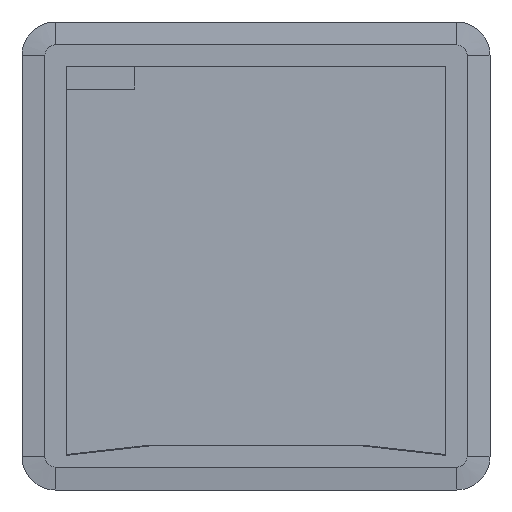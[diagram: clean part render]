
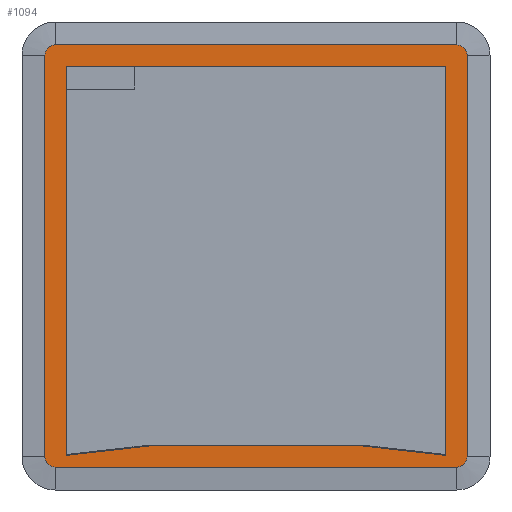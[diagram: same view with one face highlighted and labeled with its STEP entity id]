
A CAD part, front view. The second image highlights one B-rep face of the part: STEP entity #1094.
In plain terms, the highlighted planar face has unit normal (0, -1, 0).
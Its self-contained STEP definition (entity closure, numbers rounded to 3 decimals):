
#162=FACE_BOUND('',#3929,.T.);
#1094=ADVANCED_FACE('',(#2465,#162),#22536,.T.);
#2465=FACE_OUTER_BOUND('',#3928,.T.);
#3928=EDGE_LOOP('',(#9380,#9381,#9382,#9383,#9384,#9385,#9386,#9387));
#3929=EDGE_LOOP('',(#9388,#9389,#9390,#9391,#9392,#9393));
#9380=ORIENTED_EDGE('',*,*,#14332,.F.);
#9381=ORIENTED_EDGE('',*,*,#14335,.F.);
#9382=ORIENTED_EDGE('',*,*,#14338,.F.);
#9383=ORIENTED_EDGE('',*,*,#14341,.F.);
#9384=ORIENTED_EDGE('',*,*,#14344,.F.);
#9385=ORIENTED_EDGE('',*,*,#14363,.F.);
#9386=ORIENTED_EDGE('',*,*,#14325,.F.);
#9387=ORIENTED_EDGE('',*,*,#14329,.F.);
#9388=ORIENTED_EDGE('',*,*,#14313,.F.);
#9389=ORIENTED_EDGE('',*,*,#14311,.F.);
#9390=ORIENTED_EDGE('',*,*,#14309,.T.);
#9391=ORIENTED_EDGE('',*,*,#14314,.F.);
#9392=ORIENTED_EDGE('',*,*,#14315,.F.);
#9393=ORIENTED_EDGE('',*,*,#14312,.T.);
#14309=EDGE_CURVE('',#20990,#20989,#18599,.T.);
#14311=EDGE_CURVE('',#20990,#20991,#18601,.T.);
#14312=EDGE_CURVE('',#20993,#20992,#18602,.T.);
#14313=EDGE_CURVE('',#20991,#20992,#18603,.T.);
#14314=EDGE_CURVE('',#20995,#20989,#18604,.T.);
#14315=EDGE_CURVE('',#20993,#20995,#18605,.T.);
#14325=EDGE_CURVE('',#20997,#20996,#18615,.T.);
#14329=EDGE_CURVE('',#20994,#20997,#15879,.T.);
#14332=EDGE_CURVE('',#21001,#20994,#18620,.T.);
#14335=EDGE_CURVE('',#21003,#21001,#15881,.T.);
#14338=EDGE_CURVE('',#21005,#21003,#18624,.T.);
#14341=EDGE_CURVE('',#21007,#21005,#15883,.T.);
#14344=EDGE_CURVE('',#21009,#21007,#18628,.T.);
#14363=EDGE_CURVE('',#20996,#21009,#15889,.T.);
#15879=(
BOUNDED_CURVE()
B_SPLINE_CURVE(2,(#42123,#42124,#42125),.UNSPECIFIED.,.F.,.F.)
B_SPLINE_CURVE_WITH_KNOTS((3,3),(-7.069,0.),.UNSPECIFIED.)
CURVE()
GEOMETRIC_REPRESENTATION_ITEM()
RATIONAL_B_SPLINE_CURVE((1.,0.707,1.))
REPRESENTATION_ITEM('')
);
#15881=(
BOUNDED_CURVE()
B_SPLINE_CURVE(2,(#42137,#42138,#42139),.UNSPECIFIED.,.F.,.F.)
B_SPLINE_CURVE_WITH_KNOTS((3,3),(-7.069,0.),.UNSPECIFIED.)
CURVE()
GEOMETRIC_REPRESENTATION_ITEM()
RATIONAL_B_SPLINE_CURVE((1.,0.707,1.))
REPRESENTATION_ITEM('')
);
#15883=(
BOUNDED_CURVE()
B_SPLINE_CURVE(2,(#42151,#42152,#42153),.UNSPECIFIED.,.F.,.F.)
B_SPLINE_CURVE_WITH_KNOTS((3,3),(-7.069,0.),.UNSPECIFIED.)
CURVE()
GEOMETRIC_REPRESENTATION_ITEM()
RATIONAL_B_SPLINE_CURVE((1.,0.707,1.))
REPRESENTATION_ITEM('')
);
#15889=(
BOUNDED_CURVE()
B_SPLINE_CURVE(2,(#42201,#42202,#42203),.UNSPECIFIED.,.F.,.F.)
B_SPLINE_CURVE_WITH_KNOTS((3,3),(-7.069,0.),.UNSPECIFIED.)
CURVE()
GEOMETRIC_REPRESENTATION_ITEM()
RATIONAL_B_SPLINE_CURVE((1.,0.707,1.))
REPRESENTATION_ITEM('')
);
#18599=B_SPLINE_CURVE_WITH_KNOTS('',1,(#42005,#42006),.UNSPECIFIED.,.F.,
 .F.,(2,2),(-165.5,0.),.UNSPECIFIED.);
#18601=B_SPLINE_CURVE_WITH_KNOTS('',1,(#42009,#42010),.UNSPECIFIED.,.F.,
 .F.,(2,2),(0.,169.649),.UNSPECIFIED.);
#18602=B_SPLINE_CURVE_WITH_KNOTS('',1,(#42011,#42012),.UNSPECIFIED.,.F.,
 .F.,(2,2),(-92.062,0.),.UNSPECIFIED.);
#18603=B_SPLINE_CURVE_WITH_KNOTS('',1,(#42013,#42014),.UNSPECIFIED.,.F.,
 .F.,(2,2),(0.,36.953),.UNSPECIFIED.);
#18604=B_SPLINE_CURVE_WITH_KNOTS('',1,(#42015,#42016),.UNSPECIFIED.,.F.,
 .F.,(2,2),(0.,169.649),.UNSPECIFIED.);
#18605=B_SPLINE_CURVE_WITH_KNOTS('',1,(#42017,#42018),.UNSPECIFIED.,.F.,
 .F.,(2,2),(-36.953,0.),.UNSPECIFIED.);
#18615=B_SPLINE_CURVE_WITH_KNOTS('',1,(#42115,#42116),.UNSPECIFIED.,.F.,
 .F.,(2,2),(-175.,0.),.UNSPECIFIED.);
#18620=B_SPLINE_CURVE_WITH_KNOTS('',1,(#42131,#42132),.UNSPECIFIED.,.F.,
 .F.,(2,2),(-175.,0.),.UNSPECIFIED.);
#18624=B_SPLINE_CURVE_WITH_KNOTS('',1,(#42145,#42146),.UNSPECIFIED.,.F.,
 .F.,(2,2),(-175.,0.),.UNSPECIFIED.);
#18628=B_SPLINE_CURVE_WITH_KNOTS('',1,(#42159,#42160),.UNSPECIFIED.,.F.,
 .F.,(2,2),(-175.,0.),.UNSPECIFIED.);
#20989=VERTEX_POINT('',#41933);
#20990=VERTEX_POINT('',#41934);
#20991=VERTEX_POINT('',#41935);
#20992=VERTEX_POINT('',#41936);
#20993=VERTEX_POINT('',#41937);
#20994=VERTEX_POINT('',#41938);
#20995=VERTEX_POINT('',#41939);
#20996=VERTEX_POINT('',#41940);
#20997=VERTEX_POINT('',#41941);
#21001=VERTEX_POINT('',#41945);
#21003=VERTEX_POINT('',#41947);
#21005=VERTEX_POINT('',#41949);
#21007=VERTEX_POINT('',#41951);
#21009=VERTEX_POINT('',#41953);
#22536=PLANE('',#23993);
#23993=AXIS2_PLACEMENT_3D('',#41652,#25000,$);
#25000=DIRECTION('',(0.,-1.,0.));
#41652=CARTESIAN_POINT('',(-110.4,-27.5,110.4));
#41933=CARTESIAN_POINT('',(82.75,-27.5,82.75));
#41934=CARTESIAN_POINT('',(-82.75,-27.5,82.75));
#41935=CARTESIAN_POINT('',(-82.75,-27.5,-86.899));
#41936=CARTESIAN_POINT('',(-46.031,-27.5,-82.75));
#41937=CARTESIAN_POINT('',(46.031,-27.5,-82.75));
#41938=CARTESIAN_POINT('',(-92.,-27.5,87.5));
#41939=CARTESIAN_POINT('',(82.75,-27.5,-86.899));
#41940=CARTESIAN_POINT('',(87.5,-27.5,92.));
#41941=CARTESIAN_POINT('',(-87.5,-27.5,92.));
#41945=CARTESIAN_POINT('',(-92.,-27.5,-87.5));
#41947=CARTESIAN_POINT('',(-87.5,-27.5,-92.));
#41949=CARTESIAN_POINT('',(87.5,-27.5,-92.));
#41951=CARTESIAN_POINT('',(92.,-27.5,-87.5));
#41953=CARTESIAN_POINT('',(92.,-27.5,87.5));
#42005=CARTESIAN_POINT('',(-82.75,-27.5,82.75));
#42006=CARTESIAN_POINT('',(82.75,-27.5,82.75));
#42009=CARTESIAN_POINT('',(-82.75,-27.5,82.75));
#42010=CARTESIAN_POINT('',(-82.75,-27.5,-86.899));
#42011=CARTESIAN_POINT('',(46.031,-27.5,-82.75));
#42012=CARTESIAN_POINT('',(-46.031,-27.5,-82.75));
#42013=CARTESIAN_POINT('',(-82.75,-27.5,-86.899));
#42014=CARTESIAN_POINT('',(-46.031,-27.5,-82.75));
#42015=CARTESIAN_POINT('',(82.75,-27.5,-86.899));
#42016=CARTESIAN_POINT('',(82.75,-27.5,82.75));
#42017=CARTESIAN_POINT('',(46.031,-27.5,-82.75));
#42018=CARTESIAN_POINT('',(82.75,-27.5,-86.899));
#42115=CARTESIAN_POINT('',(-87.5,-27.5,92.));
#42116=CARTESIAN_POINT('',(87.5,-27.5,92.));
#42123=CARTESIAN_POINT('',(-92.,-27.5,87.5));
#42124=CARTESIAN_POINT('',(-92.,-27.5,92.));
#42125=CARTESIAN_POINT('',(-87.5,-27.5,92.));
#42131=CARTESIAN_POINT('',(-92.,-27.5,-87.5));
#42132=CARTESIAN_POINT('',(-92.,-27.5,87.5));
#42137=CARTESIAN_POINT('',(-87.5,-27.5,-92.));
#42138=CARTESIAN_POINT('',(-92.,-27.5,-92.));
#42139=CARTESIAN_POINT('',(-92.,-27.5,-87.5));
#42145=CARTESIAN_POINT('',(87.5,-27.5,-92.));
#42146=CARTESIAN_POINT('',(-87.5,-27.5,-92.));
#42151=CARTESIAN_POINT('',(92.,-27.5,-87.5));
#42152=CARTESIAN_POINT('',(92.,-27.5,-92.));
#42153=CARTESIAN_POINT('',(87.5,-27.5,-92.));
#42159=CARTESIAN_POINT('',(92.,-27.5,87.5));
#42160=CARTESIAN_POINT('',(92.,-27.5,-87.5));
#42201=CARTESIAN_POINT('',(87.5,-27.5,92.));
#42202=CARTESIAN_POINT('',(92.,-27.5,92.));
#42203=CARTESIAN_POINT('',(92.,-27.5,87.5));
